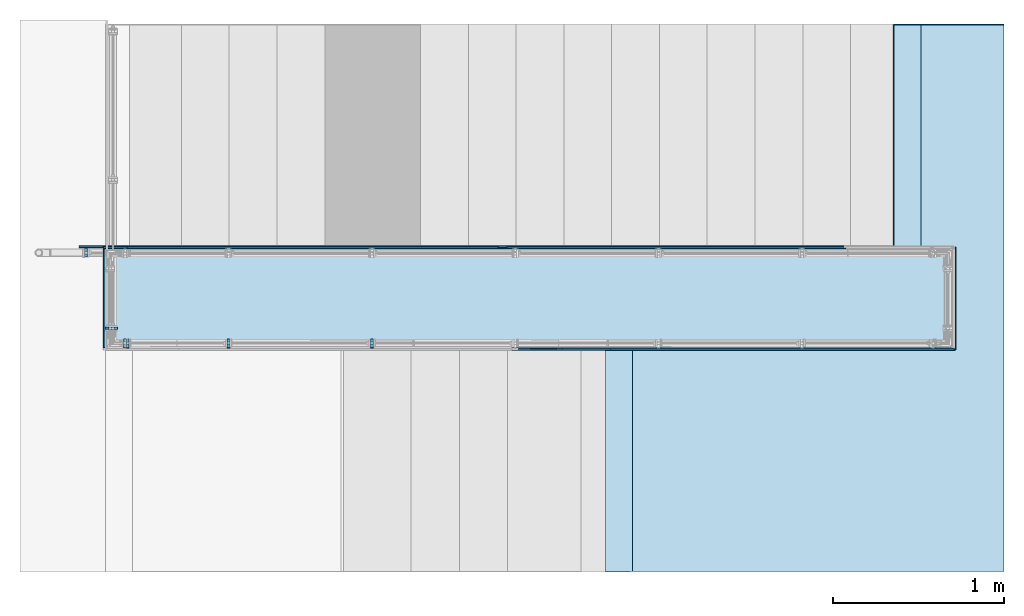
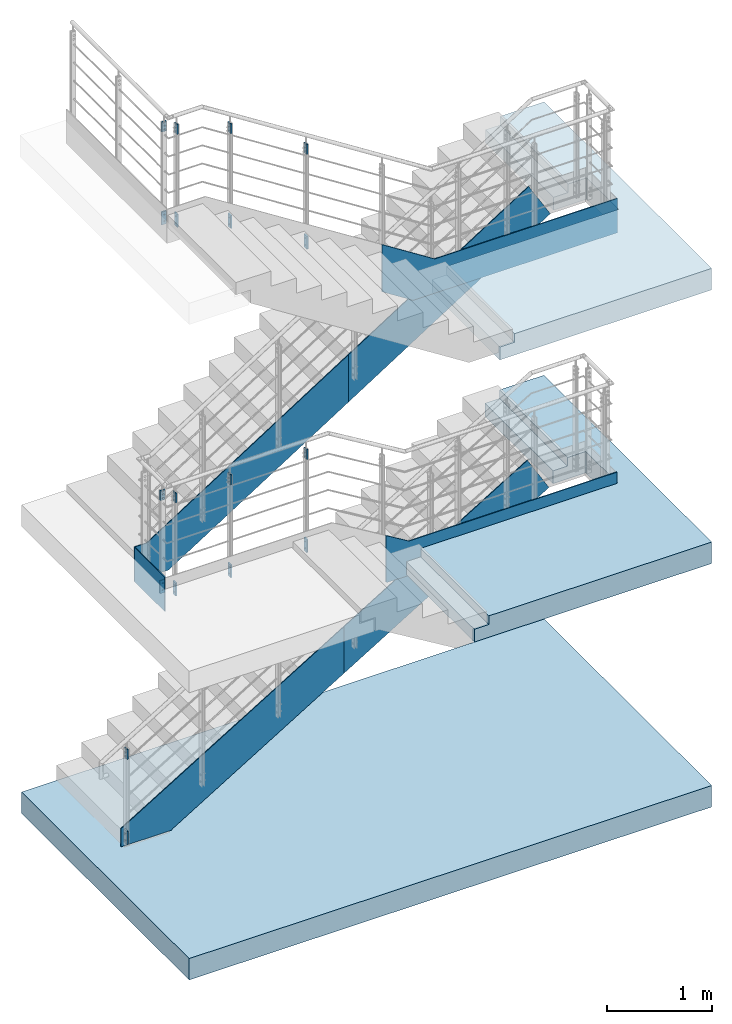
# One storey, part 17 of 98: 25 plates, 3 slabs, 51 openings.
"""IFC2X3 building model written with IfcOpenShell, lengths in millimetres."""

from ifc_helpers import new_model, entity, si_unit, converted_unit, frame, frame_2d, origin, origin_with_axes, place, context, project, spatial, polyline, circle, outline, extrude, material, layer, layer_set, element, save


model = new_model("IFC2X3")

# Units and contexts
model_context = context("Model", 3, precision=1e-09, world=origin_with_axes())
ifc_project = project(units=[si_unit("LENGTHUNIT", "METRE", prefix="MILLI"), si_unit("AREAUNIT", "SQUARE_METRE"), si_unit("VOLUMEUNIT", "CUBIC_METRE"), converted_unit("PLANEANGLEUNIT", "DEGREE", entity("IfcPlaneAngleMeasure", 0.01745329), si_unit("PLANEANGLEUNIT", "RADIAN"), dimensions=[0, 0, 0, 0, 0, 0, 0])], contexts=[model_context])

# Site, building, storey
site_placement = place(None, origin_with_axes())
site = spatial("IfcSite", under=ifc_project, at=site_placement, Name="Maybachstra?e 2, 71563 Affalterbach", CompositionType="ELEMENT")
building_placement = place(site_placement, origin_with_axes())
building = spatial("IfcBuilding", under=site, at=building_placement, Name="Struktur 1", CompositionType="ELEMENT")
storey_placement = place(building_placement, origin_with_axes())
storey = spatial("IfcBuildingStorey", under=building, at=storey_placement, Name="Default Storey", CompositionType="ELEMENT", Elevation=0.0)

# Plate, openings
ifc_material_1 = material(Name="1.4301")
ifc_layer_1 = layer(ifc_material_1, 16.0)
ifc_layer_set_1 = layer_set([ifc_layer_1], Name="1.4301")
plate_1_placement = place(None, frame((8007.029157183, -570.0, 8425.61981424), z_axis=(1.0, 0.0, 0.0), x_axis=(0.0, 1.0, 0.0)))
plate_1 = element("IfcPlate", 1, at=plate_1_placement, inside=storey, material=ifc_layer_set_1, Name="-", ObjectType="-", context=model_context, shape_type="SweptSolid", body=[
    extrude(outline(polyline([(-25.0, -57.5), (25.0, -57.5), (25.0, 57.5), (-25.0, 57.5), (-25.0, -57.5)])), origin_with_axes(), (0.0, 0.0, 1.0), 16.0),
])
opening_1_placement = place(plate_1_placement, frame((0.0, 0.0, -0.1), z_axis=(0.0, 0.0, 1.0), x_axis=(1.0, 0.0, 0.0)))
element("IfcOpeningElement", 2, at=opening_1_placement, cuts=plate_1, ObjectType="Opening", context=model_context, shape_type="SweptSolid", body=[
    extrude(outline(polyline([(-8.251, 32.499), (8.251, 32.499), (8.251, 73.92554386), (-8.251, 73.92554386), (-8.251, 32.499)])), origin(), (0.0, 0.0, 1.0), 16.2),
])
opening_2_placement = place(plate_1_placement, frame((0.0, -9.5, -0.5), z_axis=(0.0, 0.0, 1.0), x_axis=(1.0, 0.0, 0.0)))
element("IfcOpeningElement", 3, at=opening_2_placement, cuts=plate_1, ObjectType="Opening", context=model_context, shape_type="SweptSolid", body=[
    extrude(circle(Radius=6.501, at=frame_2d((0.0, 22.0), x_axis=(1.0, 0.0))), origin(), (0.0, 0.0, 1.0), 17.0),
])
opening_3_placement = place(plate_1_placement, frame((0.0, -9.5, -0.5), z_axis=(0.0, 0.0, 1.0), x_axis=(1.0, 0.0, 0.0)))
element("IfcOpeningElement", 4, at=opening_3_placement, cuts=plate_1, ObjectType="Opening", context=model_context, shape_type="SweptSolid", body=[
    extrude(circle(Radius=6.501, at=frame_2d((0.0, -22.0), x_axis=(1.0, 0.0))), origin(), (0.0, 0.0, 1.0), 17.0),
])

ifc_material_2 = material(Name="S235JR")
ifc_layer_2 = layer(ifc_material_2, 16.0)
ifc_layer_set_2 = layer_set([ifc_layer_2], Name="S235JR")
plate_2_placement = place(None, frame((8007.029157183, -572.5, 7340.51981424), z_axis=(1.0, 0.0, 0.0), x_axis=(0.0, 1.0, 0.0)))
plate_2 = element("IfcPlate", 5, at=plate_2_placement, inside=storey, material=ifc_layer_set_2, Name="-", ObjectType="-", context=model_context, shape_type="SweptSolid", body=[
    extrude(outline(polyline([(-27.5, -75.0), (27.5, -75.0), (27.5, 75.0), (-27.5, 75.0), (-27.5, -75.0)])), origin_with_axes(), (0.0, 0.0, 1.0), 16.0),
])
opening_4_placement = place(plate_2_placement, frame((2.5, 0.0, -0.5), z_axis=(0.0, 0.0, 1.0), x_axis=(1.0, 0.0, 0.0)))
element("IfcOpeningElement", 6, at=opening_4_placement, cuts=plate_2, ObjectType="Opening", context=model_context, shape_type="SweptSolid", body=[
    extrude(circle(Radius=7.001, at=frame_2d((0.0, 40.0), x_axis=(1.0, 0.0))), origin(), (0.0, 0.0, 1.0), 17.0),
])
opening_5_placement = place(plate_2_placement, frame((2.5, 0.0, -0.5), z_axis=(0.0, 0.0, 1.0), x_axis=(1.0, 0.0, 0.0)))
element("IfcOpeningElement", 7, at=opening_5_placement, cuts=plate_2, ObjectType="Opening", context=model_context, shape_type="SweptSolid", body=[
    extrude(circle(Radius=7.001, at=frame_2d((0.0, -40.0), x_axis=(1.0, 0.0))), origin(), (0.0, 0.0, 1.0), 17.0),
])

plate_3_placement = place(None, frame((8847.029157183, -571.5, 3265.0), z_axis=(1.0, 0.0, 0.0), x_axis=(0.0, 1.0, 0.0)))
plate_3 = element("IfcPlate", 8, at=plate_3_placement, inside=storey, material=ifc_layer_set_2, Name="-", ObjectType="-", context=model_context, shape_type="SweptSolid", body=[
    extrude(outline(polyline([(-27.5, -75.0), (27.5, -75.0), (27.5, 75.0), (-27.5, 75.0), (-27.5, -75.0)])), origin_with_axes(), (0.0, 0.0, 1.0), 16.0),
])
opening_6_placement = place(plate_3_placement, frame((2.5, 0.0, -0.5), z_axis=(0.0, 0.0, 1.0), x_axis=(1.0, 0.0, 0.0)))
element("IfcOpeningElement", 9, at=opening_6_placement, cuts=plate_3, ObjectType="Opening", context=model_context, shape_type="SweptSolid", body=[
    extrude(circle(Radius=7.001, at=frame_2d((0.0, 40.0), x_axis=(1.0, 0.0))), origin(), (0.0, 0.0, 1.0), 17.0),
])
opening_7_placement = place(plate_3_placement, frame((2.5, 0.0, -0.5), z_axis=(0.0, 0.0, 1.0), x_axis=(1.0, 0.0, 0.0)))
element("IfcOpeningElement", 10, at=opening_7_placement, cuts=plate_3, ObjectType="Opening", context=model_context, shape_type="SweptSolid", body=[
    extrude(circle(Radius=7.001, at=frame_2d((0.0, -40.0), x_axis=(1.0, 0.0))), origin(), (0.0, 0.0, 1.0), 17.0),
])

plate_4_placement = place(None, frame((8847.029157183, -569.0, 4330.1), z_axis=(1.0, 0.0, 0.0), x_axis=(0.0, 1.0, 0.0)))
plate_4 = element("IfcPlate", 11, at=plate_4_placement, inside=storey, material=ifc_layer_set_1, Name="-", ObjectType="-", context=model_context, shape_type="SweptSolid", body=[
    extrude(outline(polyline([(-25.0, -57.5), (25.0, -57.5), (25.0, 57.5), (-25.0, 57.5), (-25.0, -57.5)])), origin_with_axes(), (0.0, 0.0, 1.0), 16.0),
])
opening_8_placement = place(plate_4_placement, frame((0.0, 0.0, -0.1), z_axis=(0.0, 0.0, 1.0), x_axis=(1.0, 0.0, 0.0)))
element("IfcOpeningElement", 12, at=opening_8_placement, cuts=plate_4, ObjectType="Opening", context=model_context, shape_type="SweptSolid", body=[
    extrude(outline(polyline([(-8.251, 32.499), (8.251, 32.499), (8.251, 73.92554386), (-8.251, 73.92554386), (-8.251, 32.499)])), origin(), (0.0, 0.0, 1.0), 16.2),
])
opening_9_placement = place(plate_4_placement, frame((0.0, -9.5, -0.5), z_axis=(0.0, 0.0, 1.0), x_axis=(1.0, 0.0, 0.0)))
element("IfcOpeningElement", 13, at=opening_9_placement, cuts=plate_4, ObjectType="Opening", context=model_context, shape_type="SweptSolid", body=[
    extrude(circle(Radius=6.501, at=frame_2d((0.0, 22.0), x_axis=(1.0, 0.0))), origin(), (0.0, 0.0, 1.0), 17.0),
])
opening_10_placement = place(plate_4_placement, frame((0.0, -9.5, -0.5), z_axis=(0.0, 0.0, 1.0), x_axis=(1.0, 0.0, 0.0)))
element("IfcOpeningElement", 14, at=opening_10_placement, cuts=plate_4, ObjectType="Opening", context=model_context, shape_type="SweptSolid", body=[
    extrude(circle(Radius=6.501, at=frame_2d((0.0, -22.0), x_axis=(1.0, 0.0))), origin(), (0.0, 0.0, 1.0), 17.0),
])

plate_5_placement = place(None, frame((8007.029157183, -569.0, 4330.1), z_axis=(1.0, 0.0, 0.0), x_axis=(0.0, 1.0, 0.0)))
plate_5 = element("IfcPlate", 15, at=plate_5_placement, inside=storey, material=ifc_layer_set_1, Name="-", ObjectType="-", context=model_context, shape_type="SweptSolid", body=[
    extrude(outline(polyline([(-25.0, -57.5), (25.0, -57.5), (25.0, 57.5), (-25.0, 57.5), (-25.0, -57.5)])), origin_with_axes(), (0.0, 0.0, 1.0), 16.0),
])
opening_11_placement = place(plate_5_placement, frame((0.0, 0.0, -0.1), z_axis=(0.0, 0.0, 1.0), x_axis=(1.0, 0.0, 0.0)))
element("IfcOpeningElement", 16, at=opening_11_placement, cuts=plate_5, ObjectType="Opening", context=model_context, shape_type="SweptSolid", body=[
    extrude(outline(polyline([(-8.251, 32.499), (8.251, 32.499), (8.251, 73.92554386), (-8.251, 73.92554386), (-8.251, 32.499)])), origin(), (0.0, 0.0, 1.0), 16.2),
])
opening_12_placement = place(plate_5_placement, frame((0.0, -9.5, -0.5), z_axis=(0.0, 0.0, 1.0), x_axis=(1.0, 0.0, 0.0)))
element("IfcOpeningElement", 17, at=opening_12_placement, cuts=plate_5, ObjectType="Opening", context=model_context, shape_type="SweptSolid", body=[
    extrude(circle(Radius=6.501, at=frame_2d((0.0, 22.0), x_axis=(1.0, 0.0))), origin(), (0.0, 0.0, 1.0), 17.0),
])
opening_13_placement = place(plate_5_placement, frame((0.0, -9.5, -0.5), z_axis=(0.0, 0.0, 1.0), x_axis=(1.0, 0.0, 0.0)))
element("IfcOpeningElement", 18, at=opening_13_placement, cuts=plate_5, ObjectType="Opening", context=model_context, shape_type="SweptSolid", body=[
    extrude(circle(Radius=6.501, at=frame_2d((0.0, -22.0), x_axis=(1.0, 0.0))), origin(), (0.0, 0.0, 1.0), 17.0),
])

plate_6_placement = place(None, frame((8007.029157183, -571.5, 3265.0), z_axis=(1.0, 0.0, 0.0), x_axis=(0.0, 1.0, 0.0)))
plate_6 = element("IfcPlate", 19, at=plate_6_placement, inside=storey, material=ifc_layer_set_2, Name="-", ObjectType="-", context=model_context, shape_type="SweptSolid", body=[
    extrude(outline(polyline([(-27.5, -75.0), (27.5, -75.0), (27.5, 75.0), (-27.5, 75.0), (-27.5, -75.0)])), origin_with_axes(), (0.0, 0.0, 1.0), 16.0),
])
opening_14_placement = place(plate_6_placement, frame((2.5, 0.0, -0.5), z_axis=(0.0, 0.0, 1.0), x_axis=(1.0, 0.0, 0.0)))
element("IfcOpeningElement", 20, at=opening_14_placement, cuts=plate_6, ObjectType="Opening", context=model_context, shape_type="SweptSolid", body=[
    extrude(circle(Radius=7.001, at=frame_2d((0.0, 40.0), x_axis=(1.0, 0.0))), origin(), (0.0, 0.0, 1.0), 17.0),
])
opening_15_placement = place(plate_6_placement, frame((2.5, 0.0, -0.5), z_axis=(0.0, 0.0, 1.0), x_axis=(1.0, 0.0, 0.0)))
element("IfcOpeningElement", 21, at=opening_15_placement, cuts=plate_6, ObjectType="Opening", context=model_context, shape_type="SweptSolid", body=[
    extrude(circle(Radius=7.001, at=frame_2d((0.0, -40.0), x_axis=(1.0, 0.0))), origin(), (0.0, 0.0, 1.0), 17.0),
])

plate_7_placement = place(None, frame((7400.029157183, -569.0, 4330.1), z_axis=(1.0, 0.0, 0.0), x_axis=(0.0, 1.0, 0.0)))
plate_7 = element("IfcPlate", 22, at=plate_7_placement, inside=storey, material=ifc_layer_set_1, Name="-", ObjectType="-", context=model_context, shape_type="SweptSolid", body=[
    extrude(outline(polyline([(-25.0, -57.5), (25.0, -57.5), (25.0, 57.5), (-25.0, 57.5), (-25.0, -57.5)])), origin_with_axes(), (0.0, 0.0, 1.0), 16.0),
])
opening_16_placement = place(plate_7_placement, frame((0.0, 0.0, -0.1), z_axis=(0.0, 0.0, 1.0), x_axis=(1.0, 0.0, 0.0)))
element("IfcOpeningElement", 23, at=opening_16_placement, cuts=plate_7, ObjectType="Opening", context=model_context, shape_type="SweptSolid", body=[
    extrude(outline(polyline([(-8.251, 32.499), (8.251, 32.499), (8.251, 73.92554386), (-8.251, 73.92554386), (-8.251, 32.499)])), origin(), (0.0, 0.0, 1.0), 16.2),
])
opening_17_placement = place(plate_7_placement, frame((0.0, -9.5, -0.5), z_axis=(0.0, 0.0, 1.0), x_axis=(1.0, 0.0, 0.0)))
element("IfcOpeningElement", 24, at=opening_17_placement, cuts=plate_7, ObjectType="Opening", context=model_context, shape_type="SweptSolid", body=[
    extrude(circle(Radius=6.501, at=frame_2d((0.0, 22.0), x_axis=(1.0, 0.0))), origin(), (0.0, 0.0, 1.0), 17.0),
])
opening_18_placement = place(plate_7_placement, frame((0.0, -9.5, -0.5), z_axis=(0.0, 0.0, 1.0), x_axis=(1.0, 0.0, 0.0)))
element("IfcOpeningElement", 25, at=opening_18_placement, cuts=plate_7, ObjectType="Opening", context=model_context, shape_type="SweptSolid", body=[
    extrude(circle(Radius=6.501, at=frame_2d((0.0, -22.0), x_axis=(1.0, 0.0))), origin(), (0.0, 0.0, 1.0), 17.0),
])

plate_8_placement = place(None, frame((7400.029157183, -571.5, 3265.0), z_axis=(1.0, 0.0, 0.0), x_axis=(0.0, 1.0, 0.0)))
plate_8 = element("IfcPlate", 26, at=plate_8_placement, inside=storey, material=ifc_layer_set_2, Name="-", ObjectType="-", context=model_context, shape_type="SweptSolid", body=[
    extrude(outline(polyline([(-27.5, -75.0), (27.5, -75.0), (27.5, 75.0), (-27.5, 75.0), (-27.5, -75.0)])), origin_with_axes(), (0.0, 0.0, 1.0), 16.0),
])
opening_19_placement = place(plate_8_placement, frame((2.5, 0.0, -0.5), z_axis=(0.0, 0.0, 1.0), x_axis=(1.0, 0.0, 0.0)))
element("IfcOpeningElement", 27, at=opening_19_placement, cuts=plate_8, ObjectType="Opening", context=model_context, shape_type="SweptSolid", body=[
    extrude(circle(Radius=7.001, at=frame_2d((0.0, 40.0), x_axis=(1.0, 0.0))), origin(), (0.0, 0.0, 1.0), 17.0),
])
opening_20_placement = place(plate_8_placement, frame((2.5, 0.0, -0.5), z_axis=(0.0, 0.0, 1.0), x_axis=(1.0, 0.0, 0.0)))
element("IfcOpeningElement", 28, at=opening_20_placement, cuts=plate_8, ObjectType="Opening", context=model_context, shape_type="SweptSolid", body=[
    extrude(circle(Radius=7.001, at=frame_2d((0.0, -40.0), x_axis=(1.0, 0.0))), origin(), (0.0, 0.0, 1.0), 17.0),
])

plate_9_placement = place(None, frame((8847.029157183, -570.0, 7889.777167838), z_axis=(1.0, 0.0, 0.0), x_axis=(0.0, 1.0, 0.0)))
plate_9 = element("IfcPlate", 29, at=plate_9_placement, inside=storey, material=ifc_layer_set_1, Name="-", ObjectType="-", context=model_context, shape_type="SweptSolid", body=[
    extrude(outline(polyline([(-25.0, -57.5), (25.0, -57.5), (25.0, 57.5), (-25.0, 57.5), (-25.0, -57.5)])), origin_with_axes(), (0.0, 0.0, 1.0), 16.0),
])
opening_21_placement = place(plate_9_placement, frame((0.0, 0.0, -0.1), z_axis=(0.0, 0.0, 1.0), x_axis=(1.0, 0.0, 0.0)))
element("IfcOpeningElement", 30, at=opening_21_placement, cuts=plate_9, ObjectType="Opening", context=model_context, shape_type="SweptSolid", body=[
    extrude(outline(polyline([(-8.251, 32.499), (8.251, 32.499), (8.251, 73.92554386), (-8.251, 73.92554386), (-8.251, 32.499)])), origin(), (0.0, 0.0, 1.0), 16.2),
])
opening_22_placement = place(plate_9_placement, frame((0.0, -9.5, -0.5), z_axis=(0.0, 0.0, 1.0), x_axis=(1.0, 0.0, 0.0)))
element("IfcOpeningElement", 31, at=opening_22_placement, cuts=plate_9, ObjectType="Opening", context=model_context, shape_type="SweptSolid", body=[
    extrude(circle(Radius=6.501, at=frame_2d((0.0, 22.0), x_axis=(1.0, 0.0))), origin(), (0.0, 0.0, 1.0), 17.0),
])
opening_23_placement = place(plate_9_placement, frame((0.0, -9.5, -0.5), z_axis=(0.0, 0.0, 1.0), x_axis=(1.0, 0.0, 0.0)))
element("IfcOpeningElement", 32, at=opening_23_placement, cuts=plate_9, ObjectType="Opening", context=model_context, shape_type="SweptSolid", body=[
    extrude(circle(Radius=6.501, at=frame_2d((0.0, -22.0), x_axis=(1.0, 0.0))), origin(), (0.0, 0.0, 1.0), 17.0),
])

plate_10_placement = place(None, frame((8847.029157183, -572.5, 6804.677167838), z_axis=(1.0, 0.0, 0.0), x_axis=(0.0, 1.0, 0.0)))
plate_10 = element("IfcPlate", 33, at=plate_10_placement, inside=storey, material=ifc_layer_set_2, Name="-", ObjectType="-", context=model_context, shape_type="SweptSolid", body=[
    extrude(outline(polyline([(-27.5, -75.0), (27.5, -75.0), (27.5, 75.0), (-27.5, 75.0), (-27.5, -75.0)])), origin_with_axes(), (0.0, 0.0, 1.0), 16.0),
])
opening_24_placement = place(plate_10_placement, frame((2.5, 0.0, -0.5), z_axis=(0.0, 0.0, 1.0), x_axis=(1.0, 0.0, 0.0)))
element("IfcOpeningElement", 34, at=opening_24_placement, cuts=plate_10, ObjectType="Opening", context=model_context, shape_type="SweptSolid", body=[
    extrude(circle(Radius=7.001, at=frame_2d((0.0, 40.0), x_axis=(1.0, 0.0))), origin(), (0.0, 0.0, 1.0), 17.0),
])
opening_25_placement = place(plate_10_placement, frame((2.5, 0.0, -0.5), z_axis=(0.0, 0.0, 1.0), x_axis=(1.0, 0.0, 0.0)))
element("IfcOpeningElement", 35, at=opening_25_placement, cuts=plate_10, ObjectType="Opening", context=model_context, shape_type="SweptSolid", body=[
    extrude(circle(Radius=7.001, at=frame_2d((0.0, -40.0), x_axis=(1.0, 0.0))), origin(), (0.0, 0.0, 1.0), 17.0),
])

plate_11_placement = place(None, frame((7417.029157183, -570.0, 8625.099999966), z_axis=(1.0, 0.0, 0.0), x_axis=(0.0, 1.0, 0.0)))
plate_11 = element("IfcPlate", 36, at=plate_11_placement, inside=storey, material=ifc_layer_set_1, Name="-", ObjectType="-", context=model_context, shape_type="SweptSolid", body=[
    extrude(outline(polyline([(-25.0, -57.5), (25.0, -57.5), (25.0, 57.5), (-25.0, 57.5), (-25.0, -57.5)])), origin_with_axes(), (0.0, 0.0, 1.0), 16.0),
])
opening_26_placement = place(plate_11_placement, frame((0.0, 0.0, -0.1), z_axis=(0.0, 0.0, 1.0), x_axis=(1.0, 0.0, 0.0)))
element("IfcOpeningElement", 37, at=opening_26_placement, cuts=plate_11, ObjectType="Opening", context=model_context, shape_type="SweptSolid", body=[
    extrude(outline(polyline([(-8.251, 32.499), (8.251, 32.499), (8.251, 73.92554386), (-8.251, 73.92554386), (-8.251, 32.499)])), origin(), (0.0, 0.0, 1.0), 16.2),
])
opening_27_placement = place(plate_11_placement, frame((0.0, -9.5, -0.5), z_axis=(0.0, 0.0, 1.0), x_axis=(1.0, 0.0, 0.0)))
element("IfcOpeningElement", 38, at=opening_27_placement, cuts=plate_11, ObjectType="Opening", context=model_context, shape_type="SweptSolid", body=[
    extrude(circle(Radius=6.501, at=frame_2d((0.0, 22.0), x_axis=(1.0, 0.0))), origin(), (0.0, 0.0, 1.0), 17.0),
])
opening_28_placement = place(plate_11_placement, frame((0.0, -9.5, -0.5), z_axis=(0.0, 0.0, 1.0), x_axis=(1.0, 0.0, 0.0)))
element("IfcOpeningElement", 39, at=opening_28_placement, cuts=plate_11, ObjectType="Opening", context=model_context, shape_type="SweptSolid", body=[
    extrude(circle(Radius=6.501, at=frame_2d((0.0, -22.0), x_axis=(1.0, 0.0))), origin(), (0.0, 0.0, 1.0), 17.0),
])

plate_12_placement = place(None, frame((7417.029157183, -572.5, 7559.999999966), z_axis=(1.0, 0.0, 0.0), x_axis=(0.0, 1.0, 0.0)))
plate_12 = element("IfcPlate", 40, at=plate_12_placement, inside=storey, material=ifc_layer_set_2, Name="-", ObjectType="-", context=model_context, shape_type="SweptSolid", body=[
    extrude(outline(polyline([(-27.5, -75.0), (27.5, -75.0), (27.5, 75.0), (-27.5, 75.0), (-27.5, -75.0)])), origin_with_axes(), (0.0, 0.0, 1.0), 16.0),
])
opening_29_placement = place(plate_12_placement, frame((2.5, 0.0, -0.5), z_axis=(0.0, 0.0, 1.0), x_axis=(1.0, 0.0, 0.0)))
element("IfcOpeningElement", 41, at=opening_29_placement, cuts=plate_12, ObjectType="Opening", context=model_context, shape_type="SweptSolid", body=[
    extrude(circle(Radius=7.001, at=frame_2d((0.0, 40.0), x_axis=(1.0, 0.0))), origin(), (0.0, 0.0, 1.0), 17.0),
])
opening_30_placement = place(plate_12_placement, frame((2.5, 0.0, -0.5), z_axis=(0.0, 0.0, 1.0), x_axis=(1.0, 0.0, 0.0)))
element("IfcOpeningElement", 42, at=opening_30_placement, cuts=plate_12, ObjectType="Opening", context=model_context, shape_type="SweptSolid", body=[
    extrude(circle(Radius=7.001, at=frame_2d((0.0, -40.0), x_axis=(1.0, 0.0))), origin(), (0.0, 0.0, 1.0), 17.0),
])

# Plate
ifc_layer_3 = layer(ifc_material_2, 10.0)
ifc_layer_set_3 = layer_set([ifc_layer_3], Name="S235JR")
plate_13_placement = place(None, frame((7291.028157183, -307.0, 3250.0), z_axis=(-1.0, 0.0, 0.0), x_axis=(0.0, -1.0, 0.0)))
element("IfcPlate", 43, at=plate_13_placement, inside=storey, material=ifc_layer_set_3, Name="-", ObjectType="-", context=model_context, shape_type="SweptSolid", body=[
    extrude(outline(polyline([(-290.0, -200.0), (290.0, -200.0), (290.0, 200.0), (-290.0, 200.0), (-290.0, -200.0)])), origin_with_axes(), (0.0, 0.0, 1.0), 10.0),
])

# Plate, openings
plate_14_placement = place(None, frame((7188.030157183, -40.0, 1098.600356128), z_axis=(1.0, 0.0, 0.0), x_axis=(0.0, 1.0, 0.0)))
plate_14 = element("IfcPlate", 44, at=plate_14_placement, inside=storey, material=ifc_layer_set_1, Name="-", ObjectType="-", context=model_context, shape_type="SweptSolid", body=[
    extrude(outline(polyline([(-25.0, -57.5), (25.0, -57.5), (25.0, 57.5), (-25.0, 57.5), (-25.0, -57.5)])), origin_with_axes(), (0.0, 0.0, -1.0), 16.0),
])
opening_31_placement = place(plate_14_placement, frame((-8.251, 32.499, 0.1), z_axis=(0.0, 0.0, 1.0), x_axis=(1.0, 0.0, 0.0)))
element("IfcOpeningElement", 45, at=opening_31_placement, cuts=plate_14, ObjectType="Opening", context=model_context, shape_type="SweptSolid", body=[
    extrude(outline(polyline([(0.0, 0.0), (16.502, 0.0), (16.502, 41.42654386), (0.0, 41.42654386), (0.0, 0.0)])), origin(), (0.0, 0.0, -1.0), 16.2),
])
opening_32_placement = place(plate_14_placement, frame((-6.501, 12.5, 0.5), z_axis=(0.0, 0.0, 1.0), x_axis=(1.0, 0.0, 0.0)))
element("IfcOpeningElement", 46, at=opening_32_placement, cuts=plate_14, ObjectType="Opening", context=model_context, shape_type="SweptSolid", body=[
    extrude(circle(Radius=6.501, at=frame_2d((6.501, 0.0), x_axis=(1.0, 0.0))), origin(), (0.0, 0.0, -1.0), 17.0),
])
opening_33_placement = place(plate_14_placement, frame((-6.501, -31.5, 0.5), z_axis=(0.0, 0.0, 1.0), x_axis=(1.0, 0.0, 0.0)))
element("IfcOpeningElement", 47, at=opening_33_placement, cuts=plate_14, ObjectType="Opening", context=model_context, shape_type="SweptSolid", body=[
    extrude(circle(Radius=6.501, at=frame_2d((6.501, 0.0), x_axis=(1.0, 0.0))), origin(), (0.0, 0.0, -1.0), 17.0),
])

plate_15_placement = place(None, frame((7188.030157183, -37.5, 123.500356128), z_axis=(-1.0, 0.0, 0.0), x_axis=(0.0, -1.0, 0.0)))
plate_15 = element("IfcPlate", 48, at=plate_15_placement, inside=storey, material=ifc_layer_set_2, Name="-", ObjectType="-", context=model_context, shape_type="SweptSolid", body=[
    extrude(outline(polyline([(-27.5, -75.0), (27.5, -75.0), (27.5, 75.0), (-27.5, 75.0), (-27.5, -75.0)])), origin_with_axes(), (0.0, 0.0, 1.0), 16.0),
])
opening_34_placement = place(plate_15_placement, frame((9.501, 40.0, -0.5), z_axis=(0.0, 0.0, -1.0), x_axis=(-1.0, 0.0, 0.0)))
element("IfcOpeningElement", 49, at=opening_34_placement, cuts=plate_15, ObjectType="Opening", context=model_context, shape_type="SweptSolid", body=[
    extrude(circle(Radius=7.001, at=frame_2d((7.001, 0.0), x_axis=(1.0, 0.0))), origin(), (0.0, 0.0, -1.0), 17.0),
])
opening_35_placement = place(plate_15_placement, frame((9.501, -40.0, -0.5), z_axis=(0.0, 0.0, -1.0), x_axis=(-1.0, 0.0, 0.0)))
element("IfcOpeningElement", 50, at=opening_35_placement, cuts=plate_15, ObjectType="Opening", context=model_context, shape_type="SweptSolid", body=[
    extrude(circle(Radius=7.001, at=frame_2d((7.001, 0.0), x_axis=(1.0, 0.0))), origin(), (0.0, 0.0, -1.0), 17.0),
])

plate_16_placement = place(None, frame((7321.028157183, -474.0, 4330.1), z_axis=(0.0, -1.0, 0.0), x_axis=(1.0, 0.0, 0.0)))
plate_16 = element("IfcPlate", 51, at=plate_16_placement, inside=storey, material=ifc_layer_set_1, Name="-", ObjectType="-", context=model_context, shape_type="SweptSolid", body=[
    extrude(outline(polyline([(-25.0, -57.5), (25.0, -57.5), (25.0, 57.5), (-25.0, 57.5), (-25.0, -57.5)])), origin_with_axes(), (0.0, 0.0, 1.0), 16.0),
])
opening_36_placement = place(plate_16_placement, frame((0.0, 0.0, -0.1), z_axis=(0.0, 0.0, 1.0), x_axis=(1.0, 0.0, 0.0)))
element("IfcOpeningElement", 52, at=opening_36_placement, cuts=plate_16, ObjectType="Opening", context=model_context, shape_type="SweptSolid", body=[
    extrude(outline(polyline([(-8.251, 32.499), (8.251, 32.499), (8.251, 73.92554386), (-8.251, 73.92554386), (-8.251, 32.499)])), origin(), (0.0, 0.0, 1.0), 16.2),
])
opening_37_placement = place(plate_16_placement, frame((0.0, -9.5, -0.5), z_axis=(0.0, 0.0, 1.0), x_axis=(1.0, 0.0, 0.0)))
element("IfcOpeningElement", 53, at=opening_37_placement, cuts=plate_16, ObjectType="Opening", context=model_context, shape_type="SweptSolid", body=[
    extrude(circle(Radius=6.501, at=frame_2d((0.0, 22.0), x_axis=(1.0, 0.0))), origin(), (0.0, 0.0, 1.0), 17.0),
])
opening_38_placement = place(plate_16_placement, frame((0.0, -9.5, -0.5), z_axis=(0.0, 0.0, 1.0), x_axis=(1.0, 0.0, 0.0)))
element("IfcOpeningElement", 54, at=opening_38_placement, cuts=plate_16, ObjectType="Opening", context=model_context, shape_type="SweptSolid", body=[
    extrude(circle(Radius=6.501, at=frame_2d((0.0, -22.0), x_axis=(1.0, 0.0))), origin(), (0.0, 0.0, 1.0), 17.0),
])

plate_17_placement = place(None, frame((7318.528157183, -474.0, 3265.0), z_axis=(0.0, -1.0, 0.0), x_axis=(1.0, 0.0, 0.0)))
plate_17 = element("IfcPlate", 55, at=plate_17_placement, inside=storey, material=ifc_layer_set_2, Name="-", ObjectType="-", context=model_context, shape_type="SweptSolid", body=[
    extrude(outline(polyline([(-27.5, -75.0), (27.5, -75.0), (27.5, 75.0), (-27.5, 75.0), (-27.5, -75.0)])), origin_with_axes(), (0.0, 0.0, 1.0), 16.0),
])
opening_39_placement = place(plate_17_placement, frame((2.5, 0.0, -0.5), z_axis=(0.0, 0.0, 1.0), x_axis=(1.0, 0.0, 0.0)))
element("IfcOpeningElement", 56, at=opening_39_placement, cuts=plate_17, ObjectType="Opening", context=model_context, shape_type="SweptSolid", body=[
    extrude(circle(Radius=7.001, at=frame_2d((0.0, 40.0), x_axis=(1.0, 0.0))), origin(), (0.0, 0.0, 1.0), 17.0),
])
opening_40_placement = place(plate_17_placement, frame((2.5, 0.0, -0.5), z_axis=(0.0, 0.0, 1.0), x_axis=(1.0, 0.0, 0.0)))
element("IfcOpeningElement", 57, at=opening_40_placement, cuts=plate_17, ObjectType="Opening", context=model_context, shape_type="SweptSolid", body=[
    extrude(circle(Radius=7.001, at=frame_2d((0.0, -40.0), x_axis=(1.0, 0.0))), origin(), (0.0, 0.0, 1.0), 17.0),
])

plate_18_placement = place(None, frame((7338.029157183, -475.0, 8625.099999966), z_axis=(0.0, -1.0, 0.0), x_axis=(1.0, 0.0, 0.0)))
plate_18 = element("IfcPlate", 58, at=plate_18_placement, inside=storey, material=ifc_layer_set_1, Name="-", ObjectType="-", context=model_context, shape_type="SweptSolid", body=[
    extrude(outline(polyline([(-25.0, -57.5), (25.0, -57.5), (25.0, 57.5), (-25.0, 57.5), (-25.0, -57.5)])), origin_with_axes(), (0.0, 0.0, 1.0), 16.0),
])
opening_41_placement = place(plate_18_placement, frame((0.0, 0.0, -0.1), z_axis=(0.0, 0.0, 1.0), x_axis=(1.0, 0.0, 0.0)))
element("IfcOpeningElement", 59, at=opening_41_placement, cuts=plate_18, ObjectType="Opening", context=model_context, shape_type="SweptSolid", body=[
    extrude(outline(polyline([(-8.251, 32.499), (8.251, 32.499), (8.251, 73.92554386), (-8.251, 73.92554386), (-8.251, 32.499)])), origin(), (0.0, 0.0, 1.0), 16.2),
])
opening_42_placement = place(plate_18_placement, frame((0.0, -9.5, -0.5), z_axis=(0.0, 0.0, 1.0), x_axis=(1.0, 0.0, 0.0)))
element("IfcOpeningElement", 60, at=opening_42_placement, cuts=plate_18, ObjectType="Opening", context=model_context, shape_type="SweptSolid", body=[
    extrude(circle(Radius=6.501, at=frame_2d((0.0, 22.0), x_axis=(1.0, 0.0))), origin(), (0.0, 0.0, 1.0), 17.0),
])
opening_43_placement = place(plate_18_placement, frame((0.0, -9.5, -0.5), z_axis=(0.0, 0.0, 1.0), x_axis=(1.0, 0.0, 0.0)))
element("IfcOpeningElement", 61, at=opening_43_placement, cuts=plate_18, ObjectType="Opening", context=model_context, shape_type="SweptSolid", body=[
    extrude(circle(Radius=6.501, at=frame_2d((0.0, -22.0), x_axis=(1.0, 0.0))), origin(), (0.0, 0.0, 1.0), 17.0),
])

plate_19_placement = place(None, frame((7335.529157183, -475.0, 7559.999999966), z_axis=(0.0, -1.0, 0.0), x_axis=(1.0, 0.0, 0.0)))
plate_19 = element("IfcPlate", 62, at=plate_19_placement, inside=storey, material=ifc_layer_set_2, Name="-", ObjectType="-", context=model_context, shape_type="SweptSolid", body=[
    extrude(outline(polyline([(-27.5, -75.0), (27.5, -75.0), (27.5, 75.0), (-27.5, 75.0), (-27.5, -75.0)])), origin_with_axes(), (0.0, 0.0, 1.0), 16.0),
])
opening_44_placement = place(plate_19_placement, frame((2.5, 0.0, -0.5), z_axis=(0.0, 0.0, 1.0), x_axis=(1.0, 0.0, 0.0)))
element("IfcOpeningElement", 63, at=opening_44_placement, cuts=plate_19, ObjectType="Opening", context=model_context, shape_type="SweptSolid", body=[
    extrude(circle(Radius=7.001, at=frame_2d((0.0, 40.0), x_axis=(1.0, 0.0))), origin(), (0.0, 0.0, 1.0), 17.0),
])
opening_45_placement = place(plate_19_placement, frame((2.5, 0.0, -0.5), z_axis=(0.0, 0.0, 1.0), x_axis=(1.0, 0.0, 0.0)))
element("IfcOpeningElement", 64, at=opening_45_placement, cuts=plate_19, ObjectType="Opening", context=model_context, shape_type="SweptSolid", body=[
    extrude(circle(Radius=7.001, at=frame_2d((0.0, -40.0), x_axis=(1.0, 0.0))), origin(), (0.0, 0.0, 1.0), 17.0),
])

# Plates
plate_20_placement = place(None, frame((7700.029157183, -10.0, 0.0), z_axis=(0.0, 1.0, 0.0), x_axis=(-1.0, 0.0, 0.0)))
element("IfcPlate", 65, at=plate_20_placement, inside=storey, material=ifc_layer_set_3, Name="-", ObjectType="-", context=model_context, shape_type="SweptSolid", body=[
    extrude(outline(polyline([(-1896.75, 1707.554606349), (-1896.75, 1163.236300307), (0.0, 9.097795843), (0.0, 0.0), (559.999, 0.0), (559.999, 212.666710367), (-1896.75, 1707.554606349)])), origin_with_axes(), (0.0, 0.0, 1.0), 10.0),
])
plate_21_placement = place(None, frame((7278.028157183, -599.0, 3450.0), z_axis=(0.0, -1.0, 0.0), x_axis=(0.0, 0.0, -1.0)))
element("IfcPlate", 66, at=plate_21_placement, inside=storey, material=ifc_layer_set_3, Name="-", ObjectType="-", context=model_context, shape_type="SweptSolid", body=[
    extrude(outline(polyline([(356.008692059, 2435.251), (898.9670931, 2435.251), (910.0, 2453.552645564), (910.0, 4986.004000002), (510.0, 4986.004000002), (510.0, 2690.695404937), (356.008692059, 2435.251)])), origin_with_axes(), (0.0, 0.0, 1.0), 10.0),
])
plate_22_placement = place(None, frame((7278.028157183, -15.0, 3050.0), z_axis=(0.0, 1.0, 0.0), x_axis=(0.0, 0.0, 1.0)))
element("IfcPlate", 67, at=plate_22_placement, inside=storey, material=ifc_layer_set_3, Name="-", ObjectType="-", context=model_context, shape_type="SweptSolid", body=[
    extrude(outline(polyline([(1817.012394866, 2368.751), (1265.76249859, 2368.751), (0.0, 380.708659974), (0.0, 3.0), (400.0, 3.0), (400.0, 143.15129984), (1817.012394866, 2368.751)])), origin_with_axes(), (0.0, 0.0, 1.0), 10.0),
])
plate_23_placement = place(None, frame((12274.032157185, -600.0, 5732.5), z_axis=(0.0, -1.0, 0.0), x_axis=(0.0, 0.0, 1.0)))
element("IfcPlate", 68, at=plate_23_placement, inside=storey, material=ifc_layer_set_3, Name="-", ObjectType="-", context=model_context, shape_type="SweptSolid", body=[
    extrude(outline(polyline([(769.066845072, 2600.753000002), (217.512057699, 2600.753000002), (0.0, 2259.775793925), (0.0, 3.0), (400.0, 3.0), (400.0, 2022.194813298), (769.066845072, 2600.753000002)])), origin_with_axes(), (0.0, 0.0, 1.0), 10.0),
])
plate_24_placement = place(None, frame((7278.028157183, -15.0, 3050.0), z_axis=(0.0, 1.0, 0.0), x_axis=(0.0, 0.0, 1.0)))
element("IfcPlate", 69, at=plate_24_placement, inside=storey, material=ifc_layer_set_3, Name="-", ObjectType="-", context=model_context, shape_type="SweptSolid", body=[
    extrude(outline(polyline([(2682.5, 4593.918944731), (1265.76249859, 2368.751), (1817.012394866, 2368.751), (3082.5, 4356.361584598), (2682.5, 4593.918944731)])), origin_with_axes(), (0.0, 0.0, 1.0), 10.0),
])
plate_25_placement = place(None, frame((7700.029157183, -10.0, 0.0), z_axis=(0.0, 1.0, 0.0), x_axis=(-1.0, 0.0, 0.0)))
element("IfcPlate", 70, at=plate_25_placement, inside=storey, material=ifc_layer_set_3, Name="-", ObjectType="-", context=model_context, shape_type="SweptSolid", body=[
    extrude(outline(polyline([(-4159.369726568, 2540.0), (-1896.75, 1163.236300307), (-1896.75, 1707.554606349), (-3922.192172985, 2940.0), (-4159.369726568, 2540.0)])), origin_with_axes(), (0.0, 0.0, 1.0), 10.0),
])

# Slab, openings
ifc_material_3 = material(Name="C25/30")
ifc_layer_4 = layer(ifc_material_3, 250.0)
ifc_layer_set_4 = layer_set([ifc_layer_4], Name="C25/30")
slab_1_placement = place(None, frame((11249.02150037, -304.499, 2560.0), z_axis=(0.0, 0.0, -1.0), x_axis=(-1.0, 0.0, 0.0)))
slab_1 = element("IfcSlab", 71, at=slab_1_placement, inside=storey, material=ifc_layer_set_4, Name="-", ObjectType="-", context=model_context, shape_type="SweptSolid", body=[
    extrude(outline(polyline([(-1309.991343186, -1604.5), (1309.991343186, -1604.5), (1309.991343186, 1604.5), (-1309.991343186, 1604.5), (-1309.991343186, -1604.5)])), origin_with_axes(), (0.0, 0.0, -1.0), 250.0),
])
opening_46_placement = place(slab_1_placement, frame((1149.990343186, 1604.6, -149.999), z_axis=(0.0, 1.0, 0.0), x_axis=(1.0, 0.0, 0.0)))
element("IfcOpeningElement", 72, at=opening_46_placement, cuts=slab_1, ObjectType="Opening", context=model_context, shape_type="SweptSolid", body=[
    extrude(outline(polyline([(0.0, 0.0), (287.874485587, 0.0), (287.874485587, 385.088003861), (0.0, 385.088003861), (0.0, 0.0)])), origin(), (0.0, 0.0, -1.0), 3209.2),
])
opening_47_placement = place(slab_1_placement, frame((-821.009656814, 294.499, -150.0), z_axis=(0.0, 0.0, 1.0), x_axis=(1.0, 0.0, 0.0)))
element("IfcOpeningElement", 73, at=opening_47_placement, cuts=slab_1, ObjectType="Opening", context=model_context, shape_type="SweptSolid", body=[
    extrude(outline(polyline([(0.0, 0.0), (285.19430295, 0.0), (285.19430295, 1955.2826796), (0.0, 1955.2826796), (0.0, 0.0)])), origin(), (0.0, 0.0, -1.0), 100.1),
])
opening_48_placement = place(slab_1_placement, frame((1472.965211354, -304.501950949, -250.1), z_axis=(0.0, 0.0, -1.0), x_axis=(-1.0, -4.01e-07, 0.0)))
element("IfcOpeningElement", 74, at=opening_48_placement, cuts=slab_1, ObjectType="Opening", context=model_context, shape_type="SweptSolid", body=[
    extrude(outline(polyline([(0.0, 0.0), (2495.974869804, 0.0), (2495.975624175, 609.00295095), (2133.975624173, 609.002805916), (2133.974947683, 2297.503503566), (-0.000945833, 2360.773503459), (0.0, 0.0)])), origin(), (0.0, 0.0, -1.0), 250.2),
])

slab_2_placement = place(None, frame((11390.52150037, -306.999, 5752.5), z_axis=(0.0, 0.0, -1.0), x_axis=(-1.0, 0.0, 0.0)))
slab_2 = element("IfcSlab", 75, at=slab_2_placement, inside=storey, material=ifc_layer_set_4, Name="-", ObjectType="-", context=model_context, shape_type="SweptSolid", body=[
    extrude(outline(polyline([(-1168.491343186, -1602.0), (1168.491343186, -1602.0), (1168.491343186, 1602.0), (-1168.491343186, 1602.0), (-1168.491343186, -1602.0)])), origin_with_axes(), (0.0, 0.0, -1.0), 250.0),
])
opening_49_placement = place(slab_2_placement, frame((1008.490343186, 1602.1, -149.999), z_axis=(0.0, 1.0, 0.0), x_axis=(1.0, 0.0, 0.0)))
element("IfcOpeningElement", 76, at=opening_49_placement, cuts=slab_2, ObjectType="Opening", context=model_context, shape_type="SweptSolid", body=[
    extrude(outline(polyline([(0.0, 0.0), (429.374485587, 0.0), (429.374485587, 385.088003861), (0.0, 385.088003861), (0.0, 0.0)])), origin(), (0.0, 0.0, -1.0), 3204.2),
])
opening_50_placement = place(slab_2_placement, frame((-682.509656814, 291.998, -150.0), z_axis=(0.0, 0.0, 1.0), x_axis=(1.0, 0.0, 0.0)))
element("IfcOpeningElement", 77, at=opening_50_placement, cuts=slab_2, ObjectType="Opening", context=model_context, shape_type="SweptSolid", body=[
    extrude(outline(polyline([(0.0, 0.0), (234.231196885, 0.0), (234.231196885, 4733.002), (0.0, 4733.002), (0.0, 0.0)])), origin(), (0.0, 0.0, -1.0), 100.1),
])
opening_51_placement = place(slab_2_placement, frame((1472.965211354, -303.001999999, -250.1), z_axis=(0.0, 0.0, -1.0), x_axis=(-1.0, -8.47e-07, 0.0)))
element("IfcOpeningElement", 78, at=opening_51_placement, cuts=slab_2, ObjectType="Opening", context=model_context, shape_type="SweptSolid", body=[
    extrude(outline(polyline([(0.0, 0.0), (2361.47586817, 0.0), (2361.474363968, 605.004), (1995.474355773, 605.003690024), (1995.472902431, 2321.018946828), (-0.001984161, 2342.771787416), (0.0, 0.0)])), origin(), (0.0, 0.0, -1.0), 250.2),
])

# Slab
slab_3_placement = place(None, frame((9676.030157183, -307.0, -280.0), z_axis=(0.0, 0.0, 1.0), x_axis=(1.0, 0.0, 0.0)))
element("IfcSlab", 79, at=slab_3_placement, inside=storey, material=ifc_layer_set_4, Name="-", ObjectType="-", context=model_context, shape_type="SweptSolid", body=[
    extrude(outline(polyline([(-2882.982686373, -1602.0), (2882.982686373, -1602.0), (2882.982686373, 1602.0), (-2882.982686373, 1602.0), (-2882.982686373, -1602.0)])), origin_with_axes(), (0.0, 0.0, 1.0), 250.0),
])

save(model, "model.ifc")
